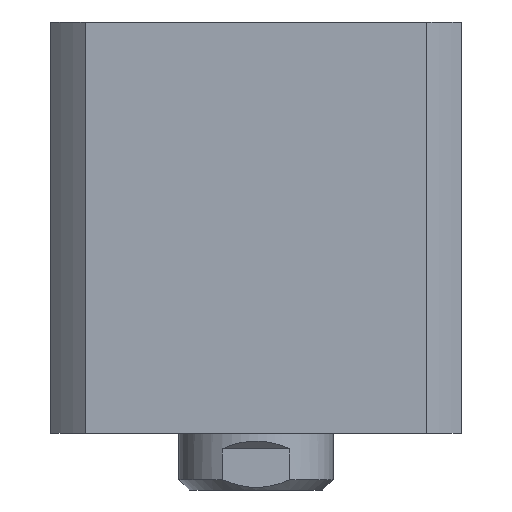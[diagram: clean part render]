
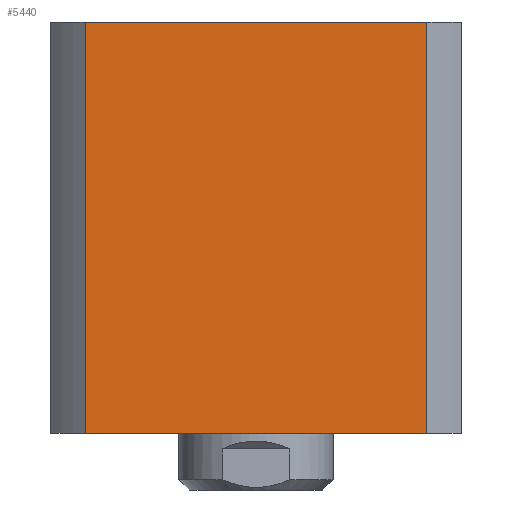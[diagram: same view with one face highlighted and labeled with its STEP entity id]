
A CAD part, left-side view. The second image highlights one B-rep face of the part: STEP entity #5440.
In plain terms, the highlighted planar face has unit normal (-1, 0, 0).
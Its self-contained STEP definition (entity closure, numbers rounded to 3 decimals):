
#505 = CARTESIAN_POINT ( 'NONE',  ( -40., 33.226, 40. ) ) ;
#609 = EDGE_CURVE ( 'NONE', #8302, #2318, #8594, .T. ) ;
#1628 = DIRECTION ( 'NONE',  ( 0., 1., 0. ) ) ;
#1730 = LINE ( 'NONE', #5309, #8325 ) ;
#1948 = ORIENTED_EDGE ( 'NONE', *, *, #13619, .F. ) ;
#2181 = CARTESIAN_POINT ( 'NONE',  ( -40., 33.226, 40. ) ) ;
#2318 = VERTEX_POINT ( 'NONE', #4358 ) ;
#2700 = DIRECTION ( 'NONE',  ( 0., -1., 0. ) ) ;
#3215 = ORIENTED_EDGE ( 'NONE', *, *, #609, .T. ) ;
#3306 = ORIENTED_EDGE ( 'NONE', *, *, #7140, .F. ) ;
#3558 = ORIENTED_EDGE ( 'NONE', *, *, #4194, .T. ) ;
#4194 = EDGE_CURVE ( 'NONE', #2318, #4443, #5661, .T. ) ;
#4305 = CARTESIAN_POINT ( 'NONE',  ( -40., 33.226, -40. ) ) ;
#4358 = CARTESIAN_POINT ( 'NONE',  ( -40., 33.226, -40. ) ) ;
#4381 = AXIS2_PLACEMENT_3D ( 'NONE', #10133, #7080, #1628 ) ;
#4443 = VERTEX_POINT ( 'NONE', #9815 ) ;
#4647 = VECTOR ( 'NONE', #10633, 1000. ) ;
#5309 = CARTESIAN_POINT ( 'NONE',  ( -40., -33.226, 40. ) ) ;
#5383 = EDGE_LOOP ( 'NONE', ( #3558, #3306, #1948, #3215 ) ) ;
#5440 = ADVANCED_FACE ( 'NONE', ( #11926 ), #12339, .F. ) ;
#5661 = LINE ( 'NONE', #4305, #4647 ) ;
#7080 = DIRECTION ( 'NONE',  ( 1., 0., 0. ) ) ;
#7140 = EDGE_CURVE ( 'NONE', #11093, #4443, #1730, .T. ) ;
#7623 = DIRECTION ( 'NONE',  ( 0., 0., -1. ) ) ;
#7712 = VECTOR ( 'NONE', #2700, 1000. ) ;
#8302 = VERTEX_POINT ( 'NONE', #10539 ) ;
#8325 = VECTOR ( 'NONE', #10734, 1000. ) ;
#8594 = LINE ( 'NONE', #2181, #12965 ) ;
#9815 = CARTESIAN_POINT ( 'NONE',  ( -40., -33.226, -40. ) ) ;
#10133 = CARTESIAN_POINT ( 'NONE',  ( -40., 33.226, 40. ) ) ;
#10539 = CARTESIAN_POINT ( 'NONE',  ( -40., 33.226, 40. ) ) ;
#10587 = LINE ( 'NONE', #505, #7712 ) ;
#10633 = DIRECTION ( 'NONE',  ( 0., -1., 0. ) ) ;
#10734 = DIRECTION ( 'NONE',  ( 0., 0., -1. ) ) ;
#11093 = VERTEX_POINT ( 'NONE', #13840 ) ;
#11926 = FACE_OUTER_BOUND ( 'NONE', #5383, .T. ) ;
#12339 = PLANE ( 'NONE',  #4381 ) ;
#12965 = VECTOR ( 'NONE', #7623, 1000. ) ;
#13619 = EDGE_CURVE ( 'NONE', #8302, #11093, #10587, .T. ) ;
#13840 = CARTESIAN_POINT ( 'NONE',  ( -40., -33.226, 40. ) ) ;
